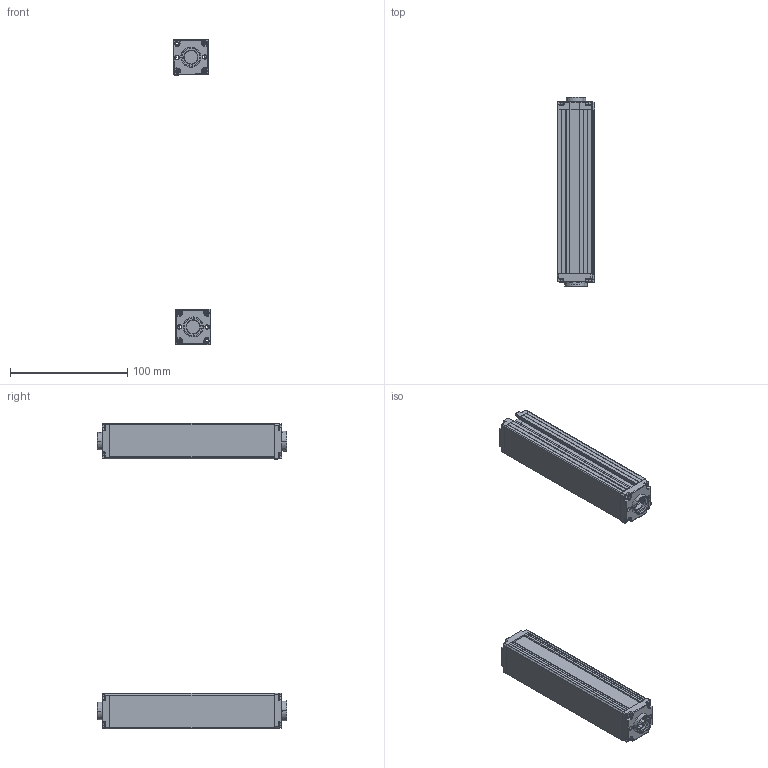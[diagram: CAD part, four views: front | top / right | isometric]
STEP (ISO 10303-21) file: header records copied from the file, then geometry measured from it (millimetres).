
FILE_DESCRIPTION (( 'STEP AP203' ), '1' );
FILE_NAME ('ZDA1210-100.STEP', '2022-08-30T03:30:01', ( 'Windows 蚚誧' ), ( 'Organization' ), 'SwSTEP 2.0', 'SolidWorks 2020', '' );
FILE_SCHEMA (( 'CONFIG_CONTROL_DESIGN' ));
Length unit declared in the file: millimetre
Products named in the file (5): 錨璃1; 錨璃8; 錨璃8 - 萵掛 (2); 錨璃10; ZDA1210-100
Assembly tree (8 placements, depth 2):
  ZDA1210-100
    錨璃1  x2
    錨璃8  x2
    錨璃8 - 萵掛 (2)  x2
    錨璃10  x2
Bounding box: 32.36 x 161.4 x 260.35 mm (x, y, z)
Volume: 99020.5 mm3; surface area: 107725.2 mm2
Topology: 8 solids, 8 shells, 1032 faces, 2690 edges, 1668 vertices
Faces by surface type: plane 464, cylinder 310, cone 120, bspline 58, torus 48, sphere 32
Entity records: 17901 total; most frequent: CARTESIAN_POINT 4731, ORIENTED_EDGE 2666, DIRECTION 2616, EDGE_CURVE 1333, AXIS2_PLACEMENT_3D 894, VERTEX_POINT 834, VECTOR 828, LINE 828
